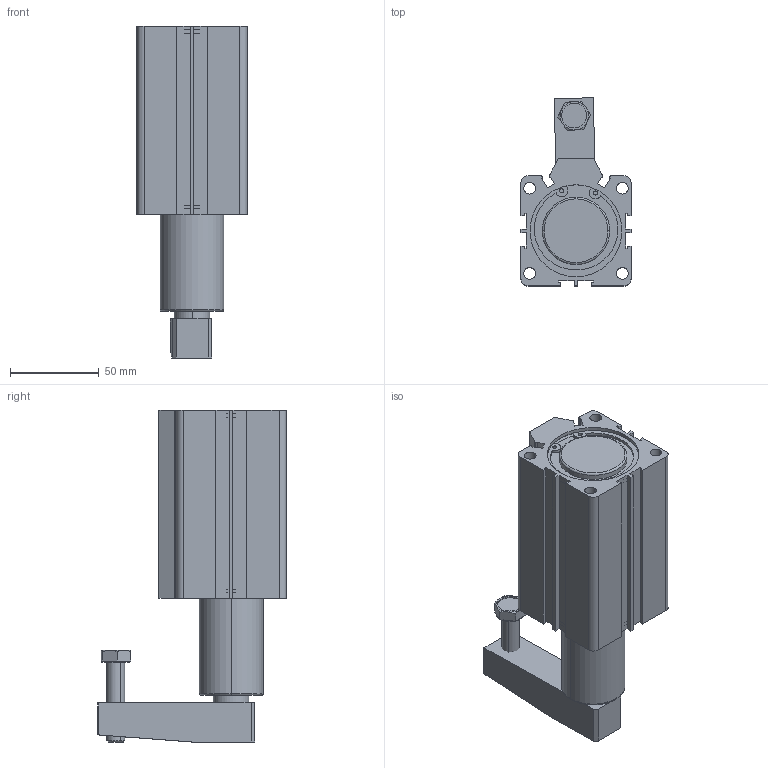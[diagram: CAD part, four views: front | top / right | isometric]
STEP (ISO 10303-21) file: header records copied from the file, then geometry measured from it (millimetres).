
FILE_DESCRIPTION (( 'STEP AP214' ), '1' );
FILE_NAME ('MKA50.STEP', '2018-12-10T08:39:39', ( '' ), ( '' ), 'SwSTEP 2.0', 'SolidWorks 2018', '' );
FILE_SCHEMA (( 'AUTOMOTIVE_DESIGN' ));
Length unit declared in the file: millimetre
Products named in the file (13): MKA 50 ARKA KAPAK; MKA50; Kastas Seals-KO-46X2 (1); Kastas Seals-KO-48X2; MKA 50 ON KAPAK; formed hex screw_am_B18.2.3.2M - Formed hex screw, M10 x 1.5 x 45 --45WN; mil; 20x10 pap yuzuk; socket head cap screw_am_B18.3.1M - 12 x 1.75 x 30 Hex SHCS -- 30NHX; ustpabuc; KASTAS-K52-20X25X4-5_2; MKA 50 boru; ring_3bm1-50
Assembly tree (14 placements, depth 2):
  MKA50
    MKA 50 boru
    MKA 50 ARKA KAPAK
    MKA 50 ON KAPAK
    mil
    KASTAS-K52-20X25X4-5_2
    20x10 pap yuzuk  x2
    ustpabuc
    socket head cap screw_am_B18.3.1M - 12 x 1.75 x 30 Hex SHCS -- 30NHX
    formed hex screw_am_B18.2.3.2M - Formed hex screw, M10 x 1.5 x 45 --45WN
    ring_3bm1-50  x2
    Kastas Seals-KO-46X2 (1)
    Kastas Seals-KO-48X2
Bounding box: 62 x 106.16 x 186.95 mm (x, y, z)
Volume: 369952.4 mm3; surface area: 129626.3 mm2
Topology: 14 solids, 14 shells, 376 faces, 899 edges, 571 vertices
Faces by surface type: plane 153, cylinder 137, cone 58, bspline 19, torus 9
Entity records: 11615 total; most frequent: CARTESIAN_POINT 2784, DIRECTION 1757, ORIENTED_EDGE 1636, EDGE_CURVE 818, AXIS2_PLACEMENT_3D 671, VERTEX_POINT 521, VECTOR 415, LINE 415
